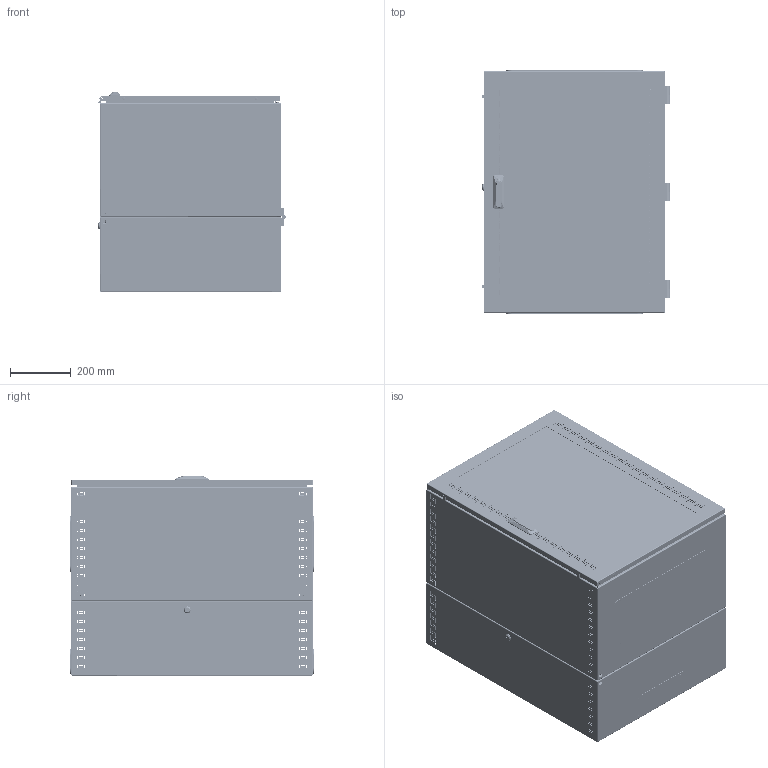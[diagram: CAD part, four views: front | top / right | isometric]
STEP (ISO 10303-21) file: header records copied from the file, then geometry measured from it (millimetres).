
FILE_DESCRIPTION (( 'STEP AP203' ), '1' );
FILE_NAME ('R5STI1665GS.STEP', '2019-07-16T12:25:36', ( '' ), ( '' ), 'SwSTEP 2.0', 'SolidWorks 2017', '' );
FILE_SCHEMA (( 'CONFIG_CONTROL_DESIGN' ));
Length unit declared in the file: millimetre
Products named in the file (51): RB.0692.04.00.0 捘_-02 (800x600); RB.0692.03.00.0 C縫-02 (800x600); Catch Mesan; AC00C398; M6x12-DIN 6921_stright; M4x8 GOST 17475-80 (DIN 965)_straight; M6x10-A1100004_straight; RB.0692.01.01.0_-02 (800x600x400); AC00C061_AC00C061; RB.0374.05.00.0 捘_-06 (800x600 glass); AC00C401_AC00C401; AC00C383; Handle 308 Mesan; RB.0692.01.02.0_-02 (800x600); RB.0374.04.01.0; AC00C112; AC00C380; M6 art.MGR-MKO-0625_2洵; RB.0374.06.00.0 捘_-06 (800x600 glass); Ì6õ20-A5100001_straight; RB.0374.04.00.0 CÁ; PF 7,5x15 door STI_0800x0600; R5STI1665GS; RB.0692.02.01.0; RB.0374.00.01.0_-00 (400); RB.0692.01.00.0 C縫-02 (800x600x400); M6-DIN 6923 (CM100600)_straight; Glass STI_0800x0600; RB.0692.02.00.0 C縫-02 (800x600x400); MirrorRB.0374.00.01.0_-00 (400)<As Machined>; RB.0374.03.01.0; Lock 20x17,5x90 Ruslock; RB.0692.03.01.0_-02 (800x600); Glue STI_0800x0600; Hinge M8 60x60 Ruslock; MirrorMirrorRB.0374.00.01.0_-00 (400)<As Machined><As Machined>; RB.0374.03.00.0 CÁ; Nut 20x17,5x90 Ruslock; RB.0374.01.02.0_-02 (800x600); Handle Mesan (part 1)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
Assembly tree (164 placements, depth 4):
  R5STI1665GS
    RB.0692.04.00.0 捘_-02 (800x600)
      RB.0692.03.00.0 C縫-02 (800x600)
        RB.0692.03.01.0_-02 (800x600)
        RB.0374.01.02.0_-02 (800x600)
        Ì6õ12-A5100231_straight  x2
      AC00C061_AC00C061  x4
      RB.0374.04.00.0 CÁ  x2
        RB.0374.04.01.0
        Ì6õ12-A5100231_straight
      M6-DIN 6923 (CM100600)_straight  x8
      Lock 20x17,5x90 Ruslock
        Lock 20x17,5x90 Ruslock
        Nut 20x17,5x90 Ruslock
    RB.0692.02.00.0 C縫-02 (800x600x400)
      RB.0692.01.00.0 C縫-02 (800x600x400)
        RB.0692.01.01.0_-02 (800x600x400)
        RB.0692.01.02.0_-02 (800x600)
        Ì6õ20-A5100001_straight  x4
        Ì6õ12-A5100231_straight  x12
      RB.0374.03.00.0 CÁ  x2
        RB.0374.03.01.0
        Ì6õ12-A5100231_straight
      RB.0048.02.01.0  x2
      AC00C399  x2
      M4x8 GOST 17475-80 (DIN 965)_straight  x4
      AC00C383  x2
      AC00C061_AC00C061  x8
      M6-DIN 6923 (CM100600)_straight  x8
      M6 art.MGR-MKO-0625_2洵  x2
      RB.0692.02.01.0  x2
    Hinge M8 60x60 Ruslock  x6
    M8-DIN 6923 (CM100800)_stright  x12
    RB.0374.06.00.0 捘_-06 (800x600 glass)
      RB.0374.05.00.0 捘_-06 (800x600 glass)
        RB.0374.05.01.0_-06 (800x600 glass)
        AC00C398  x2
        Ì6õ12-A5100231_straight  x2
      AC00C112  x4
      AC00C061_AC00C061  x2
      PF 7,5x15 door STI_0800x0600
      Glass STI_0800x0600
      Glue STI_0800x0600
      Handle 308 Mesan
        Handle Mesan (part 1)
        Handle Mesan (part 2)
        Catch Mesan
        Handle Mesan (part 3)
        4.8x13 DIN 7981 (R5A07)_straight  x3
        M6x10-A1100004_straight
    RB.0374.00.01.0_-00 (400)
    MirrorRB.0374.00.01.0_-00 (400)<As Machined>  x2
    MirrorMirrorRB.0374.00.01.0_-00 (400)<As Machined><As Machined>
    RB.0374.00.02.0_-02 (16U)  x2
    RB.0374.00.02.0 mirror_-06 (16U)  x2
    M6-DIN 6923 (CM100600)_straight  x16
    M6x12-DIN 6921_stright  x8
    AC00C401_AC00C401  x2
    AC00C380  x2
Bounding box: 620 x 803 x 662.96 mm (x, y, z)
Volume: 6235822.2 mm3; surface area: 7291321.7 mm2
Topology: 225 solids, 225 shells, 9838 faces, 25431 edges, 16299 vertices
Faces by surface type: plane 5943, cylinder 1697, bspline 1086, cone 850, torus 234, sphere 28
Entity records: 194771 total; most frequent: CARTESIAN_POINT 53420, ORIENTED_EDGE 28374, DIRECTION 24782, EDGE_CURVE 14187, VECTOR 11192, LINE 11192, VERTEX_POINT 9193, AXIS2_PLACEMENT_3D 6795
